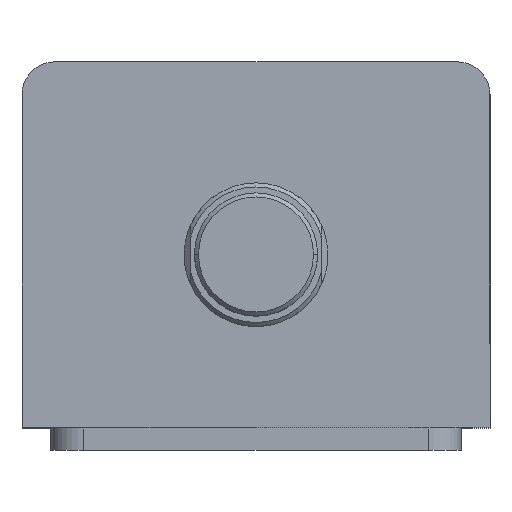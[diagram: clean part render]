
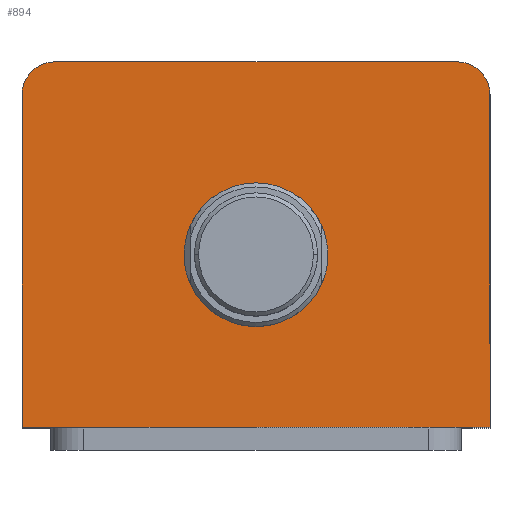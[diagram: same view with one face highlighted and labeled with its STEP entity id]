
A CAD part, top view. The second image highlights one B-rep face of the part: STEP entity #894.
In plain terms, the highlighted planar face has unit normal (0, 0, 1).
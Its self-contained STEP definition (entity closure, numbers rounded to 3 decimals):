
#1 = FACE_OUTER_BOUND ( 'NONE', #2537, .T. ) ;
#34 = VECTOR ( 'NONE', #1533, 1000. ) ;
#38 = LINE ( 'NONE', #1531, #34 ) ;
#74 = FACE_BOUND ( 'NONE', #2705, .T. ) ;
#131 = EDGE_CURVE ( 'NONE', #1043, #1112, #935, .T. ) ;
#138 = CIRCLE ( 'NONE', #2715, 8. ) ;
#152 = LINE ( 'NONE', #291, #153 ) ;
#153 = VECTOR ( 'NONE', #292, 1000. ) ;
#226 = EDGE_CURVE ( 'NONE', #1047, #1044, #915, .T. ) ;
#242 = DIRECTION ( 'NONE',  ( 1., 0., 0. ) ) ;
#243 = DIRECTION ( 'NONE',  ( 0., 0., 1. ) ) ;
#244 = CARTESIAN_POINT ( 'NONE',  ( 49., 36.5, 142. ) ) ;
#291 = CARTESIAN_POINT ( 'NONE',  ( -57., 44.5, 142. ) ) ;
#292 = DIRECTION ( 'NONE',  ( -1., 0., 0. ) ) ;
#384 = CARTESIAN_POINT ( 'NONE',  ( 57., 36.5, 142. ) ) ;
#392 = DIRECTION ( 'NONE',  ( 1., 0., 0. ) ) ;
#394 = CARTESIAN_POINT ( 'NONE',  ( -49., 44.5, 142. ) ) ;
#397 = CARTESIAN_POINT ( 'NONE',  ( -57., -44.5, 142. ) ) ;
#398 = DIRECTION ( 'NONE',  ( 0., 0., 1. ) ) ;
#405 = CARTESIAN_POINT ( 'NONE',  ( -57., 36.5, 142. ) ) ;
#419 = CARTESIAN_POINT ( 'NONE',  ( 49., 44.5, 142. ) ) ;
#424 = PLANE ( 'NONE',  #2677 ) ;
#453 = CARTESIAN_POINT ( 'NONE',  ( 0., 0., 142. ) ) ;
#466 = CARTESIAN_POINT ( 'NONE',  ( 17.5, -2.5, 142. ) ) ;
#470 = CARTESIAN_POINT ( 'NONE',  ( -17.5, -2.5, 142. ) ) ;
#471 = CARTESIAN_POINT ( 'NONE',  ( 57., -44.5, 142. ) ) ;
#547 = EDGE_CURVE ( 'NONE', #1101, #1043, #38, .T. ) ;
#710 = DIRECTION ( 'NONE',  ( 1., 0., 0. ) ) ;
#711 = DIRECTION ( 'NONE',  ( 0., 0., 1. ) ) ;
#712 = CARTESIAN_POINT ( 'NONE',  ( 0., -2.5, 142. ) ) ;
#737 = DIRECTION ( 'NONE',  ( 0., 1., 0. ) ) ;
#742 = CARTESIAN_POINT ( 'NONE',  ( 57., 44.5, 142. ) ) ;
#894 = ADVANCED_FACE ( 'NONE', ( #74, #1 ), #424, .T. ) ;
#915 = CIRCLE ( 'NONE', #2610, 17.5 ) ;
#931 = VECTOR ( 'NONE', #737, 1000. ) ;
#935 = LINE ( 'NONE', #742, #931 ) ;
#1043 = VERTEX_POINT ( 'NONE', #471 ) ;
#1044 = VERTEX_POINT ( 'NONE', #470 ) ;
#1047 = VERTEX_POINT ( 'NONE', #466 ) ;
#1084 = VERTEX_POINT ( 'NONE', #419 ) ;
#1095 = VERTEX_POINT ( 'NONE', #405 ) ;
#1101 = VERTEX_POINT ( 'NONE', #397 ) ;
#1104 = VERTEX_POINT ( 'NONE', #394 ) ;
#1112 = VERTEX_POINT ( 'NONE', #384 ) ;
#1354 = ORIENTED_EDGE ( 'NONE', *, *, #226, .F. ) ;
#1355 = ORIENTED_EDGE ( 'NONE', *, *, #3696, .F. ) ;
#1356 = ORIENTED_EDGE ( 'NONE', *, *, #1454, .T. ) ;
#1358 = ORIENTED_EDGE ( 'NONE', *, *, #1476, .T. ) ;
#1359 = ORIENTED_EDGE ( 'NONE', *, *, #1480, .T. ) ;
#1360 = ORIENTED_EDGE ( 'NONE', *, *, #547, .T. ) ;
#1361 = ORIENTED_EDGE ( 'NONE', *, *, #131, .T. ) ;
#1362 = ORIENTED_EDGE ( 'NONE', *, *, #1467, .T. ) ;
#1454 = EDGE_CURVE ( 'NONE', #1084, #1104, #152, .T. ) ;
#1467 = EDGE_CURVE ( 'NONE', #1112, #1084, #138, .T. ) ;
#1476 = EDGE_CURVE ( 'NONE', #1104, #1095, #1774, .T. ) ;
#1480 = EDGE_CURVE ( 'NONE', #1095, #1101, #1780, .T. ) ;
#1531 = CARTESIAN_POINT ( 'NONE',  ( -57., -44.5, 142. ) ) ;
#1533 = DIRECTION ( 'NONE',  ( 1., 0., 0. ) ) ;
#1774 = CIRCLE ( 'NONE', #2724, 8. ) ;
#1780 = LINE ( 'NONE', #3553, #1783 ) ;
#1783 = VECTOR ( 'NONE', #3548, 1000. ) ;
#2057 = CIRCLE ( 'NONE', #2825, 17.5 ) ;
#2537 = EDGE_LOOP ( 'NONE', ( #1356, #1358, #1359, #1360, #1361, #1362 ) ) ;
#2610 = AXIS2_PLACEMENT_3D ( 'NONE', #712, #711, #710 ) ;
#2677 = AXIS2_PLACEMENT_3D ( 'NONE', #453, #398, #392 ) ;
#2705 = EDGE_LOOP ( 'NONE', ( #1354, #1355 ) ) ;
#2715 = AXIS2_PLACEMENT_3D ( 'NONE', #244, #243, #242 ) ;
#2724 = AXIS2_PLACEMENT_3D ( 'NONE', #3588, #3585, #3580 ) ;
#2825 = AXIS2_PLACEMENT_3D ( 'NONE', #3360, #3358, #3357 ) ;
#3357 = DIRECTION ( 'NONE',  ( 1., 0., 0. ) ) ;
#3358 = DIRECTION ( 'NONE',  ( 0., 0., 1. ) ) ;
#3360 = CARTESIAN_POINT ( 'NONE',  ( 0., -2.5, 142. ) ) ;
#3548 = DIRECTION ( 'NONE',  ( 0., -1., 0. ) ) ;
#3553 = CARTESIAN_POINT ( 'NONE',  ( -57., 44.5, 142. ) ) ;
#3580 = DIRECTION ( 'NONE',  ( 1., 0., 0. ) ) ;
#3585 = DIRECTION ( 'NONE',  ( 0., 0., 1. ) ) ;
#3588 = CARTESIAN_POINT ( 'NONE',  ( -49., 36.5, 142. ) ) ;
#3696 = EDGE_CURVE ( 'NONE', #1044, #1047, #2057, .T. ) ;
